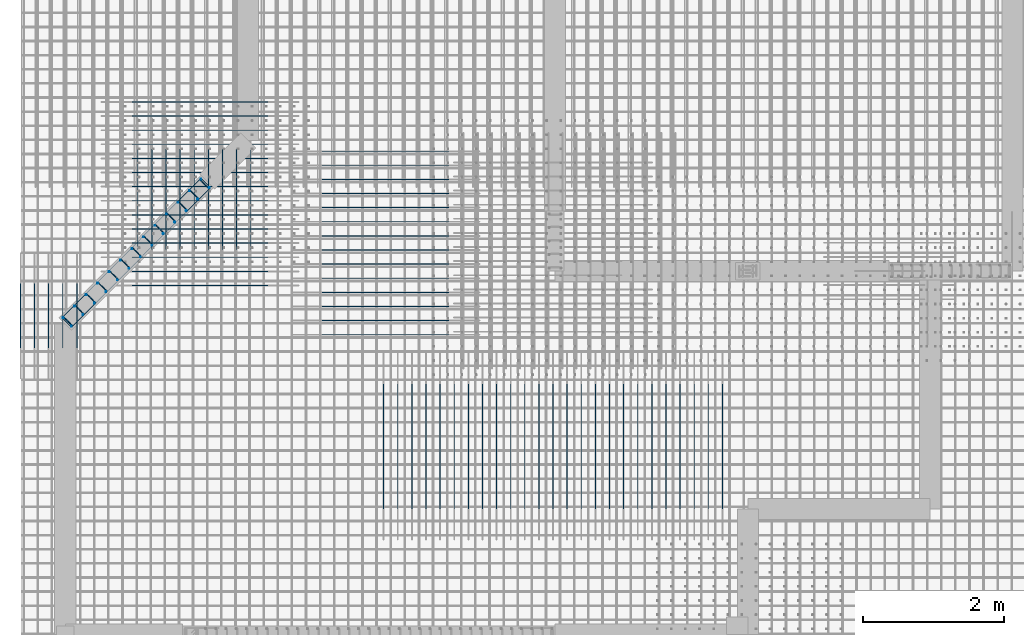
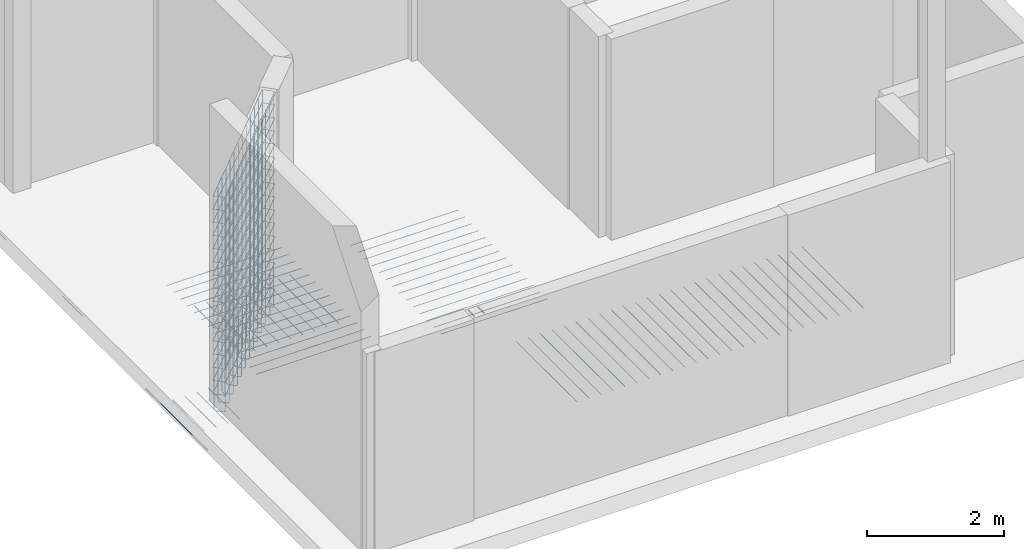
# One storey, part 3 of 8: 9 reinforcing bars.
"""IFC4 building model written with IfcOpenShell, lengths in metres."""

import ifcopenshell
import ifcopenshell.guid

model = None  # the IFC model being written
_history = None  # IfcOwnerHistory: only IFC2X3 demands one
_inside = {}  # id of a spatial element -> (the spatial element, [elements in it])
_under = {}  # id of a project, library or spatial element -> (it, [spatial elements below it])
_declared = {}  # id of a project -> (the project, [libraries it declares])
_typed = {}  # id of a type object -> (the type object, [elements of that type])
_made_of = {}  # id of a material, layer set ... -> (it, [elements and type objects made of it])


def new_model(schema):
    """Start an empty IFC model of exactly this schema.

    Asked for "IFC4X3", IfcOpenShell would pick the latest addendum, in which some entities
    have other attributes; the version numbers below select the first issue.
    IFC2X3 requires an IfcOwnerHistory on every rooted entity: one is made here for all.
    """
    global model, _history
    if schema == "IFC4X3":
        model = ifcopenshell.file(schema_version=(4, 3, 0, 0))
    else:
        model = ifcopenshell.file(schema=schema)
    _inside.clear()
    _under.clear()
    _declared.clear()
    _typed.clear()
    _made_of.clear()
    _history = None
    if model.schema == "IFC2X3":
        org = make("IfcOrganization", Name="unknown")
        user = make(
            "IfcPersonAndOrganization",
            ThePerson=make("IfcPerson", FamilyName="unknown"),
            TheOrganization=org,
        )
        app = make(
            "IfcApplication",
            ApplicationDeveloper=org,
            Version="unknown",
            ApplicationFullName="unknown",
            ApplicationIdentifier="unknown",
        )
        _history = make(
            "IfcOwnerHistory",
            OwningUser=user,
            OwningApplication=app,
            ChangeAction="ADDED",
            CreationDate=0,
        )
    return model


def make(cls, **values):
    """One entity of the class cls with the attributes given. An attribute that is None is left unset."""
    return model.create_entity(
        cls, **{name: value for name, value in values.items() if value is not None}
    )


def entity(cls, *values):
    """Any entity or typed value of the class cls, its attributes in the order of the schema. None: left unset."""
    e = model.create_entity(cls)
    for i, value in enumerate(values):
        if value is not None:
            e[i] = value
    return e


def rooted(cls, **values):
    """An entity with a GlobalId (a new one), such as an element, a storey or a relation."""
    return make(cls, GlobalId=ifcopenshell.guid.new(), OwnerHistory=_history, **values)


def si_unit(unit_type, name, prefix=None):
    """IfcSIUnit, for example si_unit("LENGTHUNIT", "METRE", prefix="MILLI")."""
    return make("IfcSIUnit", UnitType=unit_type, Prefix=prefix, Name=name)


def assignment(units):
    """IfcUnitAssignment: the units of a project."""
    return None if units is None else make("IfcUnitAssignment", Units=units)


def point(xyz):
    """IfcCartesianPoint."""
    return None if xyz is None else make("IfcCartesianPoint", Coordinates=xyz)


def direction(xyz):
    """IfcDirection."""
    return None if xyz is None else make("IfcDirection", DirectionRatios=xyz)


def frame(location, z_axis=None, x_axis=None):
    """IfcAxis2Placement3D, a coordinate frame: its origin and axes. An axis left out is left unset."""
    return make(
        "IfcAxis2Placement3D",
        Location=point(location),
        Axis=direction(z_axis),
        RefDirection=direction(x_axis),
    )


def origin_with_axes():
    """The frame at (0, 0, 0) with the z axis (0, 0, 1) and the x axis (1, 0, 0) written out."""
    return frame((0.0, 0.0, 0.0), z_axis=(0.0, 0.0, 1.0), x_axis=(1.0, 0.0, 0.0))


def place(relative_to, where):
    """IfcLocalPlacement: puts the frame where relative to a parent placement (None: the world)."""
    return make(
        "IfcLocalPlacement", PlacementRelTo=relative_to, RelativePlacement=where
    )


def context(
    kind, dimensions, precision=None, world=None, true_north=None, identifier=None
):
    """IfcGeometricRepresentationContext, for example the 3D "Model" context."""
    return make(
        "IfcGeometricRepresentationContext",
        ContextIdentifier=identifier,
        ContextType=kind,
        CoordinateSpaceDimension=dimensions,
        Precision=precision,
        WorldCoordinateSystem=world,
        TrueNorth=true_north,
    )


def project(units=None, contexts=None):
    """IfcProject with its units and contexts."""
    return rooted(
        "IfcProject",
        Name="project",
        RepresentationContexts=contexts,
        UnitsInContext=assignment(units),
    )


def spatial(cls, under=None, at=None, **own):
    """A site, building, storey or space (cls), placed at a placement, below another one or the project."""
    s = rooted(cls, ObjectPlacement=at, **own)
    if under is not None:
        _under.setdefault(under.id(), (under, []))[1].append(s)
    return s


def shape(context_of_items, identifier, shape_type, items):
    """IfcShapeRepresentation: the items that make up one representation, for example the "Body"."""
    return make(
        "IfcShapeRepresentation",
        ContextOfItems=context_of_items,
        RepresentationIdentifier=identifier,
        RepresentationType=shape_type,
        Items=items,
    )


def source(mapping_origin, context_of_items, identifier, shape_type, items):
    """IfcRepresentationMap: a shape defined once, which mapped items show again and again."""
    return make(
        "IfcRepresentationMap",
        MappingOrigin=mapping_origin,
        MappedRepresentation=shape(context_of_items, identifier, shape_type, items),
    )


def transform(
    local_origin,
    x_axis=None,
    y_axis=None,
    z_axis=None,
    scale=None,
    scale2=None,
    scale3=None,
    uniform=True,
):
    """IfcCartesianTransformationOperator3D, or its non-uniform kind. x_axis, y_axis, z_axis: its Axis1, 2, 3."""
    if uniform:
        return make(
            "IfcCartesianTransformationOperator3D",
            Axis1=direction(x_axis),
            Axis2=direction(y_axis),
            LocalOrigin=point(local_origin),
            Scale=scale,
            Axis3=direction(z_axis),
        )
    return make(
        "IfcCartesianTransformationOperator3DnonUniform",
        Axis1=direction(x_axis),
        Axis2=direction(y_axis),
        LocalOrigin=point(local_origin),
        Scale=scale,
        Axis3=direction(z_axis),
        Scale2=scale2,
        Scale3=scale3,
    )


def mapped(mapping_source, mapping_target):
    """IfcMappedItem: shows the shape of a source again, moved by a transform."""
    return make(
        "IfcMappedItem", MappingSource=mapping_source, MappingTarget=mapping_target
    )


def made_of(thing, what):
    """Note that an element or type object is made of a material, layer set ...; save() writes the relation."""
    if what is not None:
        _made_of.setdefault(what.id(), (what, []))[1].append(thing)
    return thing


def element(
    cls,
    number,
    at=None,
    inside=None,
    cuts=None,
    type_object=None,
    material=None,
    context=None,
    identifier="Body",
    shape_type=None,
    held_by="IfcProductDefinitionShape",
    body=None,
    shapes=None,
    **own,
):
    """One element of the class cls, such as IfcWall. Its Tag is "e" and its number.

    at: its placement. inside: the storey or other place that contains it. cuts: it is an
    opening in that element (IfcRelVoidsElement). A single representation is given by context,
    identifier, shape_type and body (its items); several are given by shapes. held_by: the class
    of the entity that holds the representations. save() writes the other relations.
    """
    e = rooted(cls, Tag="e%d" % number, ObjectPlacement=at, **own)
    if body is not None:
        shapes = [shape(context, identifier, shape_type, body)]
    if shapes is not None:
        e.Representation = make(held_by, Representations=shapes)
    if inside is not None:
        _inside.setdefault(inside.id(), (inside, []))[1].append(e)
    if cuts is not None:
        rooted(
            "IfcRelVoidsElement", RelatingBuildingElement=cuts, RelatedOpeningElement=e
        )
    if type_object is not None:
        _typed.setdefault(type_object.id(), (type_object, []))[1].append(e)
    return made_of(e, material)


def aggregate(whole, parts):
    """IfcRelAggregates: a whole, such as a stair, and the parts it consists of."""
    return rooted("IfcRelAggregates", RelatingObject=whole, RelatedObjects=parts)


def save(model, path):
    """Write the relations noted so far, then the file.

    IfcRelAggregates (storeys below a building ...), IfcRelContainedInSpatialStructure (elements
    in a storey), IfcRelDefinesByType, IfcRelAssociatesMaterial and IfcRelDeclares: one each for
    every whole, place, type object, material and project.
    """
    for whole, parts in _under.values():
        aggregate(whole, parts)
    for where, things in _inside.values():
        rooted(
            "IfcRelContainedInSpatialStructure",
            RelatedElements=things,
            RelatingStructure=where,
        )
    for kind, things in _typed.values():
        rooted("IfcRelDefinesByType", RelatedObjects=things, RelatingType=kind)
    for what, things in _made_of.values():
        rooted("IfcRelAssociatesMaterial", RelatedObjects=things, RelatingMaterial=what)
    for by, libraries in _declared.values():
        rooted("IfcRelDeclares", RelatingContext=by, RelatedDefinitions=libraries)
    model.write(path)


model = new_model("IFC4")

# Units and contexts
model_context = context("Model", 3, precision=1e-05, world=origin_with_axes())
ifc_project = project(units=[si_unit("LENGTHUNIT", "METRE"), si_unit("AREAUNIT", "SQUARE_METRE"), si_unit("VOLUMEUNIT", "CUBIC_METRE"), si_unit("MASSUNIT", "GRAM", prefix="KILO"), si_unit("TIMEUNIT", "SECOND"), si_unit("PLANEANGLEUNIT", "RADIAN"), si_unit("SOLIDANGLEUNIT", "STERADIAN"), si_unit("THERMODYNAMICTEMPERATUREUNIT", "DEGREE_CELSIUS")], contexts=[model_context])

# Site, building, storey
placement_1 = place(None, origin_with_axes())
site = spatial("IfcSite", under=ifc_project, at=placement_1, Name="Italia", CompositionType="ELEMENT")
building = spatial("IfcBuilding", under=site, at=placement_1, Name="Abitazione", CompositionType="ELEMENT")
storey = spatial("IfcBuildingStorey", under=building, at=placement_1, Name="Storey 0", CompositionType="ELEMENT", Elevation=0.0)

# Reinforcing bars
shared_shape_1 = source(origin_with_axes(), model_context, "Body", "AdvancedSweptSolid", [
    entity("IfcSweptDiskSolid", entity("IfcIndexedPolyCurve", entity("IfcCartesianPointList3D", [[3.11154, 7.24019, 0.0], [3.11154, 7.24019, 3.545]]), [entity("IfcLineIndex", [1, 2])], False), 0.006),
])
placement_2 = place(placement_1, origin_with_axes())
reinforcing_bar_1_placement = place(placement_2, origin_with_axes())
element("IfcReinforcingBar", 1, at=reinforcing_bar_1_placement, inside=storey, BarLength=3.545, CrossSectionArea=0.0001131, NominalDiameter=0.012, context=model_context, shape_type="MappedRepresentation", body=[
    mapped(shared_shape_1, transform((-0.97608, -0.980937, 0.0), x_axis=(1.0, 0.0, 0.0), y_axis=(0.0, 1.0, 0.0), z_axis=(0.0, 0.0, 1.0), scale=1.0)),
    mapped(shared_shape_1, transform((-0.69431, -0.935948, 0.0), x_axis=(1.0, 0.0, 0.0), y_axis=(0.0, 1.0, 0.0), z_axis=(0.0, 0.0, 1.0), scale=1.0)),
    mapped(shared_shape_1, transform((-0.36895, -0.608969, 0.0), x_axis=(1.0, 0.0, 0.0), y_axis=(0.0, 1.0, 0.0), z_axis=(0.0, 0.0, 1.0), scale=1.0)),
    mapped(shared_shape_1, transform((-0.53163, -0.772458, 0.0), x_axis=(1.0, 0.0, 0.0), y_axis=(0.0, 1.0, 0.0), z_axis=(0.0, 0.0, 1.0), scale=1.0)),
    mapped(shared_shape_1, transform((-0.65072, -0.653958, 0.0), x_axis=(1.0, 0.0, 0.0), y_axis=(0.0, 1.0, 0.0), z_axis=(0.0, 0.0, 1.0), scale=1.0)),
    mapped(shared_shape_1, transform((-0.8134, -0.817448, 0.0), x_axis=(1.0, 0.0, 0.0), y_axis=(0.0, 1.0, 0.0), z_axis=(0.0, 0.0, 1.0), scale=1.0)),
    mapped(shared_shape_1, transform((-0.48804, -0.490469, 0.0), x_axis=(1.0, 0.0, 0.0), y_axis=(0.0, 1.0, 0.0), z_axis=(0.0, 0.0, 1.0), scale=1.0)),
    mapped(shared_shape_1, transform((-0.20627, -0.445479, 0.0), x_axis=(1.0, 0.0, 0.0), y_axis=(0.0, 1.0, 0.0), z_axis=(0.0, 0.0, 1.0), scale=1.0)),
    mapped(shared_shape_1, transform((0.11909, -0.1185, 0.0), x_axis=(1.0, 0.0, 0.0), y_axis=(0.0, 1.0, 0.0), z_axis=(0.0, 0.0, 1.0), scale=1.0)),
    mapped(shared_shape_1, transform((-0.0435901, -0.28199, 0.0), x_axis=(1.0, 0.0, 0.0), y_axis=(0.0, 1.0, 0.0), z_axis=(0.0, 0.0, 1.0), scale=1.0)),
    mapped(shared_shape_1, transform((-0.16268, -0.163489, 0.0), x_axis=(1.0, 0.0, 0.0), y_axis=(0.0, 1.0, 0.0), z_axis=(0.0, 0.0, 1.0), scale=1.0)),
    mapped(shared_shape_1, transform((-0.32536, -0.326979, 0.0), x_axis=(1.0, 0.0, 0.0), y_axis=(0.0, 1.0, 0.0), z_axis=(0.0, 0.0, 1.0), scale=1.0)),
    mapped(shared_shape_1, transform((0.0, 0.0, 0.0), x_axis=(1.0, 0.0, 0.0), y_axis=(0.0, 1.0, 0.0), z_axis=(0.0, 0.0, 1.0), scale=1.0)),
    mapped(shared_shape_1, transform((-1.83307, -2.08037, 0.0), x_axis=(1.0, 0.0, 0.0), y_axis=(0.0, 1.0, 0.0), z_axis=(0.0, 0.0, 1.0), scale=1.0)),
    mapped(shared_shape_1, transform((-1.50771, -1.7534, 0.0), x_axis=(1.0, 0.0, 0.0), y_axis=(0.0, 1.0, 0.0), z_axis=(0.0, 0.0, 1.0), scale=1.0)),
    mapped(shared_shape_1, transform((-1.67039, -1.91688, 0.0), x_axis=(1.0, 0.0, 0.0), y_axis=(0.0, 1.0, 0.0), z_axis=(0.0, 0.0, 1.0), scale=1.0)),
    mapped(shared_shape_1, transform((-1.78948, -1.79838, 0.0), x_axis=(1.0, 0.0, 0.0), y_axis=(0.0, 1.0, 0.0), z_axis=(0.0, 0.0, 1.0), scale=1.0)),
    mapped(shared_shape_1, transform((-1.95216, -1.96187, 0.0), x_axis=(1.0, 0.0, 0.0), y_axis=(0.0, 1.0, 0.0), z_axis=(0.0, 0.0, 1.0), scale=1.0)),
    mapped(shared_shape_1, transform((-1.6268, -1.6349, 0.0), x_axis=(1.0, 0.0, 0.0), y_axis=(0.0, 1.0, 0.0), z_axis=(0.0, 0.0, 1.0), scale=1.0)),
    mapped(shared_shape_1, transform((-1.34503, -1.58991, 0.0), x_axis=(1.0, 0.0, 0.0), y_axis=(0.0, 1.0, 0.0), z_axis=(0.0, 0.0, 1.0), scale=1.0)),
    mapped(shared_shape_1, transform((-1.01967, -1.26293, 0.0), x_axis=(1.0, 0.0, 0.0), y_axis=(0.0, 1.0, 0.0), z_axis=(0.0, 0.0, 1.0), scale=1.0)),
    mapped(shared_shape_1, transform((-1.18235, -1.42642, 0.0), x_axis=(1.0, 0.0, 0.0), y_axis=(0.0, 1.0, 0.0), z_axis=(0.0, 0.0, 1.0), scale=1.0)),
    mapped(shared_shape_1, transform((-1.30144, -1.30792, 0.0), x_axis=(1.0, 0.0, 0.0), y_axis=(0.0, 1.0, 0.0), z_axis=(0.0, 0.0, 1.0), scale=1.0)),
    mapped(shared_shape_1, transform((-1.46412, -1.47141, 0.0), x_axis=(1.0, 0.0, 0.0), y_axis=(0.0, 1.0, 0.0), z_axis=(0.0, 0.0, 1.0), scale=1.0)),
    mapped(shared_shape_1, transform((-1.13876, -1.14443, 0.0), x_axis=(1.0, 0.0, 0.0), y_axis=(0.0, 1.0, 0.0), z_axis=(0.0, 0.0, 1.0), scale=1.0)),
    mapped(shared_shape_1, transform((-0.85699, -1.09944, 0.0), x_axis=(1.0, 0.0, 0.0), y_axis=(0.0, 1.0, 0.0), z_axis=(0.0, 0.0, 1.0), scale=1.0)),
])
shared_shape_2 = source(origin_with_axes(), model_context, "Body", "AdvancedSweptSolid", [
    entity("IfcSweptDiskSolid", entity("IfcIndexedPolyCurve", entity("IfcCartesianPointList3D", [[3.10307, 7.23168, 0.5], [3.10307, 7.23168, -0.245], [3.10469, 7.23007, -0.256481], [3.1093, 7.22548, -0.266213], [3.1162, 7.21862, -0.272716], [3.12434, 7.21052, -0.275], [3.17396, 7.16115, -0.275]]), [entity("IfcLineIndex", [1, 2]), entity("IfcLineIndex", [2, 3]), entity("IfcLineIndex", [3, 4]), entity("IfcLineIndex", [4, 5]), entity("IfcLineIndex", [5, 6]), entity("IfcLineIndex", [6, 7])], False), 0.006),
])
reinforcing_bar_2_placement = place(placement_2, origin_with_axes())
element("IfcReinforcingBar", 2, at=reinforcing_bar_2_placement, inside=storey, BarLength=0.861822, CrossSectionArea=0.0001131, NominalDiameter=0.012, context=model_context, shape_type="MappedRepresentation", body=[
    mapped(shared_shape_2, transform((-0.959164, -0.96392, 0.0), x_axis=(1.0, 0.0, 0.0), y_axis=(0.0, 1.0, 0.0), z_axis=(0.0, 0.0, 1.0), scale=1.0)),
    mapped(shared_shape_2, transform((5.52878, 13.5444, 0.0), x_axis=(-1.0, 0.0, 0.0), y_axis=(0.0, -1.0, 0.0), z_axis=(0.0, 0.0, 1.0), scale=1.0)),
    mapped(shared_shape_2, transform((5.85413, 13.8714, 0.0), x_axis=(-1.0, 0.0, 0.0), y_axis=(0.0, -1.0, 0.0), z_axis=(0.0, 0.0, 1.0), scale=1.0)),
    mapped(shared_shape_2, transform((5.69146, 13.7079, 0.0), x_axis=(-1.0, 0.0, 0.0), y_axis=(0.0, -1.0, 0.0), z_axis=(0.0, 0.0, 1.0), scale=1.0)),
    mapped(shared_shape_2, transform((-0.633816, -0.636936, 0.0), x_axis=(1.0, 0.0, 0.0), y_axis=(0.0, 1.0, 0.0), z_axis=(0.0, 0.0, 1.0), scale=1.0)),
    mapped(shared_shape_2, transform((-0.796484, -0.800431, 0.0), x_axis=(1.0, 0.0, 0.0), y_axis=(0.0, 1.0, 0.0), z_axis=(0.0, 0.0, 1.0), scale=1.0)),
    mapped(shared_shape_2, transform((-0.471112, -0.473457, 0.0), x_axis=(1.0, 0.0, 0.0), y_axis=(0.0, 1.0, 0.0), z_axis=(0.0, 0.0, 1.0), scale=1.0)),
    mapped(shared_shape_2, transform((6.0168, 14.0349, 0.0), x_axis=(-1.0, 0.0, 0.0), y_axis=(0.0, -1.0, 0.0), z_axis=(0.0, 0.0, 1.0), scale=1.0)),
    mapped(shared_shape_2, transform((6.32523, 14.3449, 0.0), x_axis=(-1.0, 0.0, 0.0), y_axis=(0.0, -1.0, 0.0), z_axis=(0.0, 0.0, 1.0), scale=1.0)),
    mapped(shared_shape_2, transform((6.17949, 14.1984, 0.0), x_axis=(-1.0, 0.0, 0.0), y_axis=(0.0, -1.0, 0.0), z_axis=(0.0, 0.0, 1.0), scale=1.0)),
    mapped(shared_shape_2, transform((-0.145776, -0.146468, 0.0), x_axis=(1.0, 0.0, 0.0), y_axis=(0.0, 1.0, 0.0), z_axis=(0.0, 0.0, 1.0), scale=1.0)),
    mapped(shared_shape_2, transform((-0.308419, -0.309973, 0.0), x_axis=(1.0, 0.0, 0.0), y_axis=(0.0, 1.0, 0.0), z_axis=(0.0, 0.0, 1.0), scale=1.0)),
    mapped(shared_shape_2, transform((0.0, 0.0, 0.0), x_axis=(1.0, 0.0, 0.0), y_axis=(0.0, 1.0, 0.0), z_axis=(0.0, 0.0, 1.0), scale=1.0)),
    mapped(shared_shape_2, transform((4.38999, 12.4, 0.0), x_axis=(-1.0, 0.0, 0.0), y_axis=(0.0, -1.0, 0.0), z_axis=(0.0, 0.0, 1.0), scale=1.0)),
    mapped(shared_shape_2, transform((4.71535, 12.727, 0.0), x_axis=(-1.0, 0.0, 0.0), y_axis=(0.0, -1.0, 0.0), z_axis=(0.0, 0.0, 1.0), scale=1.0)),
    mapped(shared_shape_2, transform((4.5527, 12.5635, 0.0), x_axis=(-1.0, 0.0, 0.0), y_axis=(0.0, -1.0, 0.0), z_axis=(0.0, 0.0, 1.0), scale=1.0)),
    mapped(shared_shape_2, transform((-1.77257, -1.78137, 0.0), x_axis=(1.0, 0.0, 0.0), y_axis=(0.0, 1.0, 0.0), z_axis=(0.0, 0.0, 1.0), scale=1.0)),
    mapped(shared_shape_2, transform((-1.93523, -1.94487, 0.0), x_axis=(1.0, 0.0, 0.0), y_axis=(0.0, 1.0, 0.0), z_axis=(0.0, 0.0, 1.0), scale=1.0)),
    mapped(shared_shape_2, transform((-1.60986, -1.61789, 0.0), x_axis=(1.0, 0.0, 0.0), y_axis=(0.0, 1.0, 0.0), z_axis=(0.0, 0.0, 1.0), scale=1.0)),
    mapped(shared_shape_2, transform((4.87806, 12.8905, 0.0), x_axis=(-1.0, 0.0, 0.0), y_axis=(0.0, -1.0, 0.0), z_axis=(0.0, 0.0, 1.0), scale=1.0)),
    mapped(shared_shape_2, transform((5.20339, 13.2175, 0.0), x_axis=(-1.0, 0.0, 0.0), y_axis=(0.0, -1.0, 0.0), z_axis=(0.0, 0.0, 1.0), scale=1.0)),
    mapped(shared_shape_2, transform((5.04071, 13.054, 0.0), x_axis=(-1.0, 0.0, 0.0), y_axis=(0.0, -1.0, 0.0), z_axis=(0.0, 0.0, 1.0), scale=1.0)),
    mapped(shared_shape_2, transform((-1.2845, -1.29091, 0.0), x_axis=(1.0, 0.0, 0.0), y_axis=(0.0, 1.0, 0.0), z_axis=(0.0, 0.0, 1.0), scale=1.0)),
    mapped(shared_shape_2, transform((-1.44721, -1.45439, 0.0), x_axis=(1.0, 0.0, 0.0), y_axis=(0.0, 1.0, 0.0), z_axis=(0.0, 0.0, 1.0), scale=1.0)),
    mapped(shared_shape_2, transform((-1.12183, -1.12742, 0.0), x_axis=(1.0, 0.0, 0.0), y_axis=(0.0, 1.0, 0.0), z_axis=(0.0, 0.0, 1.0), scale=1.0)),
    mapped(shared_shape_2, transform((5.36608, 13.3809, 0.0), x_axis=(-1.0, 0.0, 0.0), y_axis=(0.0, -1.0, 0.0), z_axis=(0.0, 0.0, 1.0), scale=1.0)),
])
shared_shape_3 = source(origin_with_axes(), model_context, "Body", "AdvancedSweptSolid", [
    entity("IfcSweptDiskSolid", entity("IfcIndexedPolyCurve", entity("IfcCartesianPointList3D", [[3.24618, 7.12173, 0.03], [1.2785, 5.14426, 0.03]]), [entity("IfcLineIndex", [1, 2])], False), 0.005),
])
reinforcing_bar_3_placement = place(placement_2, origin_with_axes())
element("IfcReinforcingBar", 3, at=reinforcing_bar_3_placement, inside=storey, BarLength=2.78965, CrossSectionArea=7.854e-05, NominalDiameter=0.01, context=model_context, shape_type="MappedRepresentation", body=[
    mapped(shared_shape_3, transform((0.0, 0.0, 2.34), x_axis=(1.0, 0.0, 0.0), y_axis=(0.0, 1.0, 0.0), z_axis=(0.0, 0.0, 1.0), scale=1.0)),
    mapped(shared_shape_3, transform((0.0, 0.0, 2.574), x_axis=(1.0, 0.0, 0.0), y_axis=(0.0, 1.0, 0.0), z_axis=(0.0, 0.0, 1.0), scale=1.0)),
    mapped(shared_shape_3, transform((0.0, 0.0, 1.872), x_axis=(1.0, 0.0, 0.0), y_axis=(0.0, 1.0, 0.0), z_axis=(0.0, 0.0, 1.0), scale=1.0)),
    mapped(shared_shape_3, transform((0.0, 0.0, 2.106), x_axis=(1.0, 0.0, 0.0), y_axis=(0.0, 1.0, 0.0), z_axis=(0.0, 0.0, 1.0), scale=1.0)),
    mapped(shared_shape_3, transform((0.0, 0.0, 3.276), x_axis=(1.0, 0.0, 0.0), y_axis=(0.0, 1.0, 0.0), z_axis=(0.0, 0.0, 1.0), scale=1.0)),
    mapped(shared_shape_3, transform((0.0, 0.0, 3.51), x_axis=(1.0, 0.0, 0.0), y_axis=(0.0, 1.0, 0.0), z_axis=(0.0, 0.0, 1.0), scale=1.0)),
    mapped(shared_shape_3, transform((0.0, 0.0, 2.808), x_axis=(1.0, 0.0, 0.0), y_axis=(0.0, 1.0, 0.0), z_axis=(0.0, 0.0, 1.0), scale=1.0)),
    mapped(shared_shape_3, transform((0.0, 0.0, 3.042), x_axis=(1.0, 0.0, 0.0), y_axis=(0.0, 1.0, 0.0), z_axis=(0.0, 0.0, 1.0), scale=1.0)),
    mapped(shared_shape_3, transform((0.0, 0.0, 0.468), x_axis=(1.0, 0.0, 0.0), y_axis=(0.0, 1.0, 0.0), z_axis=(0.0, 0.0, 1.0), scale=1.0)),
    mapped(shared_shape_3, transform((0.0, 0.0, 0.702), x_axis=(1.0, 0.0, 0.0), y_axis=(0.0, 1.0, 0.0), z_axis=(0.0, 0.0, 1.0), scale=1.0)),
    mapped(shared_shape_3, transform((4.39, 12.4, 0.0), x_axis=(-1.0, 0.0, 0.0), y_axis=(0.0, -1.0, 0.0), z_axis=(0.0, 0.0, 1.0), scale=1.0)),
    mapped(shared_shape_3, transform((0.0, 0.0, 0.0), x_axis=(1.0, 0.0, 0.0), y_axis=(0.0, 1.0, 0.0), z_axis=(0.0, 0.0, 1.0), scale=1.0)),
    mapped(shared_shape_3, transform((4.39, 12.4, 0.234), x_axis=(-1.0, 0.0, 0.0), y_axis=(0.0, -1.0, 0.0), z_axis=(0.0, 0.0, 1.0), scale=1.0)),
    mapped(shared_shape_3, transform((0.0, 0.0, 0.234), x_axis=(1.0, 0.0, 0.0), y_axis=(0.0, 1.0, 0.0), z_axis=(0.0, 0.0, 1.0), scale=1.0)),
    mapped(shared_shape_3, transform((4.39, 12.4, 0.468), x_axis=(-1.0, 0.0, 0.0), y_axis=(0.0, -1.0, 0.0), z_axis=(0.0, 0.0, 1.0), scale=1.0)),
    mapped(shared_shape_3, transform((4.39, 12.4, 0.702), x_axis=(-1.0, 0.0, 0.0), y_axis=(0.0, -1.0, 0.0), z_axis=(0.0, 0.0, 1.0), scale=1.0)),
    mapped(shared_shape_3, transform((0.0, 0.0, 1.404), x_axis=(1.0, 0.0, 0.0), y_axis=(0.0, 1.0, 0.0), z_axis=(0.0, 0.0, 1.0), scale=1.0)),
    mapped(shared_shape_3, transform((0.0, 0.0, 1.638), x_axis=(1.0, 0.0, 0.0), y_axis=(0.0, 1.0, 0.0), z_axis=(0.0, 0.0, 1.0), scale=1.0)),
    mapped(shared_shape_3, transform((4.39, 12.4, 0.936), x_axis=(-1.0, 0.0, 0.0), y_axis=(0.0, -1.0, 0.0), z_axis=(0.0, 0.0, 1.0), scale=1.0)),
    mapped(shared_shape_3, transform((0.0, 0.0, 0.936), x_axis=(1.0, 0.0, 0.0), y_axis=(0.0, 1.0, 0.0), z_axis=(0.0, 0.0, 1.0), scale=1.0)),
    mapped(shared_shape_3, transform((4.39, 12.4, 1.17), x_axis=(-1.0, 0.0, 0.0), y_axis=(0.0, -1.0, 0.0), z_axis=(0.0, 0.0, 1.0), scale=1.0)),
    mapped(shared_shape_3, transform((0.0, 0.0, 1.17), x_axis=(1.0, 0.0, 0.0), y_axis=(0.0, 1.0, 0.0), z_axis=(0.0, 0.0, 1.0), scale=1.0)),
    mapped(shared_shape_3, transform((4.39, 12.4, 2.34), x_axis=(-1.0, 0.0, 0.0), y_axis=(0.0, -1.0, 0.0), z_axis=(0.0, 0.0, 1.0), scale=1.0)),
    mapped(shared_shape_3, transform((4.39, 12.4, 2.574), x_axis=(-1.0, 0.0, 0.0), y_axis=(0.0, -1.0, 0.0), z_axis=(0.0, 0.0, 1.0), scale=1.0)),
    mapped(shared_shape_3, transform((4.39, 12.4, 1.872), x_axis=(-1.0, 0.0, 0.0), y_axis=(0.0, -1.0, 0.0), z_axis=(0.0, 0.0, 1.0), scale=1.0)),
    mapped(shared_shape_3, transform((4.39, 12.4, 2.106), x_axis=(-1.0, 0.0, 0.0), y_axis=(0.0, -1.0, 0.0), z_axis=(0.0, 0.0, 1.0), scale=1.0)),
    mapped(shared_shape_3, transform((4.39, 12.4, 3.276), x_axis=(-1.0, 0.0, 0.0), y_axis=(0.0, -1.0, 0.0), z_axis=(0.0, 0.0, 1.0), scale=1.0)),
    mapped(shared_shape_3, transform((4.39, 12.4, 3.51), x_axis=(-1.0, 0.0, 0.0), y_axis=(0.0, -1.0, 0.0), z_axis=(0.0, 0.0, 1.0), scale=1.0)),
    mapped(shared_shape_3, transform((4.39, 12.4, 2.808), x_axis=(-1.0, 0.0, 0.0), y_axis=(0.0, -1.0, 0.0), z_axis=(0.0, 0.0, 1.0), scale=1.0)),
    mapped(shared_shape_3, transform((4.39, 12.4, 3.042), x_axis=(-1.0, 0.0, 0.0), y_axis=(0.0, -1.0, 0.0), z_axis=(0.0, 0.0, 1.0), scale=1.0)),
    mapped(shared_shape_3, transform((4.39, 12.4, 1.404), x_axis=(-1.0, 0.0, 0.0), y_axis=(0.0, -1.0, 0.0), z_axis=(0.0, 0.0, 1.0), scale=1.0)),
    mapped(shared_shape_3, transform((4.39, 12.4, 1.638), x_axis=(-1.0, 0.0, 0.0), y_axis=(0.0, -1.0, 0.0), z_axis=(0.0, 0.0, 1.0), scale=1.0)),
])
shared_shape_4 = source(origin_with_axes(), model_context, "Body", "AdvancedSweptSolid", [
    entity("IfcSweptDiskSolid", entity("IfcIndexedPolyCurve", entity("IfcCartesianPointList3D", [[2.76588, 6.9084, 0.04], [3.10444, 7.24866, 0.04], [3.10768, 7.25083, 0.04], [3.11151, 7.2516, 0.04], [3.11534, 7.25085, 0.04], [3.11859, 7.24869, 0.04], [3.23909, 7.12878, 0.04], [3.24127, 7.12554, 0.04], [3.24204, 7.12172, 0.04], [3.24129, 7.11789, 0.04], [3.23913, 7.11464, 0.04], [2.90056, 6.77438, 0.04]]), [entity("IfcLineIndex", [1, 2]), entity("IfcLineIndex", [2, 3]), entity("IfcLineIndex", [3, 4]), entity("IfcLineIndex", [4, 5]), entity("IfcLineIndex", [5, 6]), entity("IfcLineIndex", [6, 7]), entity("IfcLineIndex", [7, 8]), entity("IfcLineIndex", [8, 9]), entity("IfcLineIndex", [9, 10]), entity("IfcLineIndex", [10, 11]), entity("IfcLineIndex", [11, 12])], False), 0.005),
])
reinforcing_bar_4_placement = place(placement_2, origin_with_axes())
element("IfcReinforcingBar", 4, at=reinforcing_bar_4_placement, inside=storey, BarLength=1.16122, CrossSectionArea=7.854e-05, NominalDiameter=0.01, context=model_context, shape_type="MappedRepresentation", body=[
    mapped(shared_shape_4, transform((0.0, 0.0, 2.34), x_axis=(1.0, 0.0, 0.0), y_axis=(0.0, 1.0, 0.0), z_axis=(0.0, 0.0, 1.0), scale=1.0)),
    mapped(shared_shape_4, transform((0.0, 0.0, 2.574), x_axis=(1.0, 0.0, 0.0), y_axis=(0.0, 1.0, 0.0), z_axis=(0.0, 0.0, 1.0), scale=1.0)),
    mapped(shared_shape_4, transform((0.0, 0.0, 1.872), x_axis=(1.0, 0.0, 0.0), y_axis=(0.0, 1.0, 0.0), z_axis=(0.0, 0.0, 1.0), scale=1.0)),
    mapped(shared_shape_4, transform((0.0, 0.0, 2.106), x_axis=(1.0, 0.0, 0.0), y_axis=(0.0, 1.0, 0.0), z_axis=(0.0, 0.0, 1.0), scale=1.0)),
    mapped(shared_shape_4, transform((0.0, 0.0, 3.276), x_axis=(1.0, 0.0, 0.0), y_axis=(0.0, 1.0, 0.0), z_axis=(0.0, 0.0, 1.0), scale=1.0)),
    mapped(shared_shape_4, transform((0.0, 0.0, 3.51), x_axis=(1.0, 0.0, 0.0), y_axis=(0.0, 1.0, 0.0), z_axis=(0.0, 0.0, 1.0), scale=1.0)),
    mapped(shared_shape_4, transform((0.0, 0.0, 2.808), x_axis=(1.0, 0.0, 0.0), y_axis=(0.0, 1.0, 0.0), z_axis=(0.0, 0.0, 1.0), scale=1.0)),
    mapped(shared_shape_4, transform((0.0, 0.0, 3.042), x_axis=(1.0, 0.0, 0.0), y_axis=(0.0, 1.0, 0.0), z_axis=(0.0, 0.0, 1.0), scale=1.0)),
    mapped(shared_shape_4, transform((0.0, 0.0, 0.468), x_axis=(1.0, 0.0, 0.0), y_axis=(0.0, 1.0, 0.0), z_axis=(0.0, 0.0, 1.0), scale=1.0)),
    mapped(shared_shape_4, transform((0.0, 0.0, 0.702), x_axis=(1.0, 0.0, 0.0), y_axis=(0.0, 1.0, 0.0), z_axis=(0.0, 0.0, 1.0), scale=1.0)),
    mapped(shared_shape_4, transform((4.39, 12.4, 0.0), x_axis=(-1.0, 0.0, 0.0), y_axis=(0.0, -1.0, 0.0), z_axis=(0.0, 0.0, 1.0), scale=1.0)),
    mapped(shared_shape_4, transform((0.0, 0.0, 0.0), x_axis=(1.0, 0.0, 0.0), y_axis=(0.0, 1.0, 0.0), z_axis=(0.0, 0.0, 1.0), scale=1.0)),
    mapped(shared_shape_4, transform((4.39, 12.4, 0.234), x_axis=(-1.0, 0.0, 0.0), y_axis=(0.0, -1.0, 0.0), z_axis=(0.0, 0.0, 1.0), scale=1.0)),
    mapped(shared_shape_4, transform((0.0, 0.0, 0.234), x_axis=(1.0, 0.0, 0.0), y_axis=(0.0, 1.0, 0.0), z_axis=(0.0, 0.0, 1.0), scale=1.0)),
    mapped(shared_shape_4, transform((4.39, 12.4, 0.468), x_axis=(-1.0, 0.0, 0.0), y_axis=(0.0, -1.0, 0.0), z_axis=(0.0, 0.0, 1.0), scale=1.0)),
    mapped(shared_shape_4, transform((4.39, 12.4, 0.702), x_axis=(-1.0, 0.0, 0.0), y_axis=(0.0, -1.0, 0.0), z_axis=(0.0, 0.0, 1.0), scale=1.0)),
    mapped(shared_shape_4, transform((0.0, 0.0, 1.404), x_axis=(1.0, 0.0, 0.0), y_axis=(0.0, 1.0, 0.0), z_axis=(0.0, 0.0, 1.0), scale=1.0)),
    mapped(shared_shape_4, transform((0.0, 0.0, 1.638), x_axis=(1.0, 0.0, 0.0), y_axis=(0.0, 1.0, 0.0), z_axis=(0.0, 0.0, 1.0), scale=1.0)),
    mapped(shared_shape_4, transform((4.39, 12.4, 0.936), x_axis=(-1.0, 0.0, 0.0), y_axis=(0.0, -1.0, 0.0), z_axis=(0.0, 0.0, 1.0), scale=1.0)),
    mapped(shared_shape_4, transform((0.0, 0.0, 0.936), x_axis=(1.0, 0.0, 0.0), y_axis=(0.0, 1.0, 0.0), z_axis=(0.0, 0.0, 1.0), scale=1.0)),
    mapped(shared_shape_4, transform((4.39, 12.4, 1.17), x_axis=(-1.0, 0.0, 0.0), y_axis=(0.0, -1.0, 0.0), z_axis=(0.0, 0.0, 1.0), scale=1.0)),
    mapped(shared_shape_4, transform((0.0, 0.0, 1.17), x_axis=(1.0, 0.0, 0.0), y_axis=(0.0, 1.0, 0.0), z_axis=(0.0, 0.0, 1.0), scale=1.0)),
    mapped(shared_shape_4, transform((4.39, 12.4, 2.34), x_axis=(-1.0, 0.0, 0.0), y_axis=(0.0, -1.0, 0.0), z_axis=(0.0, 0.0, 1.0), scale=1.0)),
    mapped(shared_shape_4, transform((4.39, 12.4, 2.574), x_axis=(-1.0, 0.0, 0.0), y_axis=(0.0, -1.0, 0.0), z_axis=(0.0, 0.0, 1.0), scale=1.0)),
    mapped(shared_shape_4, transform((4.39, 12.4, 1.872), x_axis=(-1.0, 0.0, 0.0), y_axis=(0.0, -1.0, 0.0), z_axis=(0.0, 0.0, 1.0), scale=1.0)),
    mapped(shared_shape_4, transform((4.39, 12.4, 2.106), x_axis=(-1.0, 0.0, 0.0), y_axis=(0.0, -1.0, 0.0), z_axis=(0.0, 0.0, 1.0), scale=1.0)),
    mapped(shared_shape_4, transform((4.39, 12.4, 3.276), x_axis=(-1.0, 0.0, 0.0), y_axis=(0.0, -1.0, 0.0), z_axis=(0.0, 0.0, 1.0), scale=1.0)),
    mapped(shared_shape_4, transform((4.39, 12.4, 3.51), x_axis=(-1.0, 0.0, 0.0), y_axis=(0.0, -1.0, 0.0), z_axis=(0.0, 0.0, 1.0), scale=1.0)),
    mapped(shared_shape_4, transform((4.39, 12.4, 2.808), x_axis=(-1.0, 0.0, 0.0), y_axis=(0.0, -1.0, 0.0), z_axis=(0.0, 0.0, 1.0), scale=1.0)),
    mapped(shared_shape_4, transform((4.39, 12.4, 3.042), x_axis=(-1.0, 0.0, 0.0), y_axis=(0.0, -1.0, 0.0), z_axis=(0.0, 0.0, 1.0), scale=1.0)),
    mapped(shared_shape_4, transform((4.39, 12.4, 1.404), x_axis=(-1.0, 0.0, 0.0), y_axis=(0.0, -1.0, 0.0), z_axis=(0.0, 0.0, 1.0), scale=1.0)),
    mapped(shared_shape_4, transform((4.39, 12.4, 1.638), x_axis=(-1.0, 0.0, 0.0), y_axis=(0.0, -1.0, 0.0), z_axis=(0.0, 0.0, 1.0), scale=1.0)),
])
shared_shape_5 = source(origin_with_axes(), model_context, "Body", "AdvancedSweptSolid", [
    entity("IfcSweptDiskSolid", entity("IfcIndexedPolyCurve", entity("IfcCartesianPointList3D", [[4.82923, 5.03922, -0.054], [6.62514, 5.03922, -0.054]]), [entity("IfcLineIndex", [1, 2])], False), 0.006),
])
reinforcing_bar_5_placement = place(placement_2, origin_with_axes())
element("IfcReinforcingBar", 5, at=reinforcing_bar_5_placement, inside=storey, BarLength=1.79591, CrossSectionArea=0.0001131, NominalDiameter=0.012, context=model_context, shape_type="MappedRepresentation", body=[
    mapped(shared_shape_5, transform((0.0, 1.6, 0.0), x_axis=(1.0, 0.0, 0.0), y_axis=(0.0, 1.0, 0.0), z_axis=(0.0, 0.0, 1.0), scale=1.0)),
    mapped(shared_shape_5, transform((0.0, 1.4, 0.0), x_axis=(1.0, 0.0, 0.0), y_axis=(0.0, 1.0, 0.0), z_axis=(0.0, 0.0, 1.0), scale=1.0)),
    mapped(shared_shape_5, transform((0.0, 1.8, 0.0), x_axis=(1.0, 0.0, 0.0), y_axis=(0.0, 1.0, 0.0), z_axis=(0.0, 0.0, 1.0), scale=1.0)),
    mapped(shared_shape_5, transform((0.0, 2.2, 0.0), x_axis=(1.0, 0.0, 0.0), y_axis=(0.0, 1.0, 0.0), z_axis=(0.0, 0.0, 1.0), scale=1.0)),
    mapped(shared_shape_5, transform((0.0, 2.0, 0.0), x_axis=(1.0, 0.0, 0.0), y_axis=(0.0, 1.0, 0.0), z_axis=(0.0, 0.0, 1.0), scale=1.0)),
    mapped(shared_shape_5, transform((0.0, 2.4, 0.0), x_axis=(1.0, 0.0, 0.0), y_axis=(0.0, 1.0, 0.0), z_axis=(0.0, 0.0, 1.0), scale=1.0)),
    mapped(shared_shape_5, transform((0.0, 0.0, 0.0), x_axis=(1.0, 0.0, 0.0), y_axis=(0.0, 1.0, 0.0), z_axis=(0.0, 0.0, 1.0), scale=1.0)),
    mapped(shared_shape_5, transform((0.0, 2.6, 0.0), x_axis=(1.0, 0.0, 0.0), y_axis=(0.0, 1.0, 0.0), z_axis=(0.0, 0.0, 1.0), scale=1.0)),
    mapped(shared_shape_5, transform((0.0, 0.2, 0.0), x_axis=(1.0, 0.0, 0.0), y_axis=(0.0, 1.0, 0.0), z_axis=(0.0, 0.0, 1.0), scale=1.0)),
    mapped(shared_shape_5, transform((0.0, 0.599999, 0.0), x_axis=(1.0, 0.0, 0.0), y_axis=(0.0, 1.0, 0.0), z_axis=(0.0, 0.0, 1.0), scale=1.0)),
    mapped(shared_shape_5, transform((0.0, 0.4, 0.0), x_axis=(1.0, 0.0, 0.0), y_axis=(0.0, 1.0, 0.0), z_axis=(0.0, 0.0, 1.0), scale=1.0)),
    mapped(shared_shape_5, transform((0.0, 0.799999, 0.0), x_axis=(1.0, 0.0, 0.0), y_axis=(0.0, 1.0, 0.0), z_axis=(0.0, 0.0, 1.0), scale=1.0)),
    mapped(shared_shape_5, transform((0.0, 1.2, 0.0), x_axis=(1.0, 0.0, 0.0), y_axis=(0.0, 1.0, 0.0), z_axis=(0.0, 0.0, 1.0), scale=1.0)),
    mapped(shared_shape_5, transform((0.0, 0.999999, 0.0), x_axis=(1.0, 0.0, 0.0), y_axis=(0.0, 1.0, 0.0), z_axis=(0.0, 0.0, 1.0), scale=1.0)),
])
shared_shape_6 = source(origin_with_axes(), model_context, "Body", "AdvancedSweptSolid", [
    entity("IfcSweptDiskSolid", entity("IfcIndexedPolyCurve", entity("IfcCartesianPointList3D", [[5.70011, 2.56701, -0.066], [5.70011, 4.34292, -0.066]]), [entity("IfcLineIndex", [1, 2])], False), 0.006),
])
reinforcing_bar_6_placement = place(placement_2, origin_with_axes())
element("IfcReinforcingBar", 6, at=reinforcing_bar_6_placement, inside=storey, BarLength=1.77591, CrossSectionArea=0.0001131, NominalDiameter=0.012, context=model_context, shape_type="MappedRepresentation", body=[
    mapped(shared_shape_6, transform((0.0, 0.0, 0.0), x_axis=(1.0, 0.0, 0.0), y_axis=(0.0, 1.0, 0.0), z_axis=(0.0, 0.0, 1.0), scale=1.0)),
    mapped(shared_shape_6, transform((1.6, 0.0, 0.0), x_axis=(1.0, 0.0, 0.0), y_axis=(0.0, 1.0, 0.0), z_axis=(0.0, 0.0, 1.0), scale=1.0)),
    mapped(shared_shape_6, transform((1.4, 0.0, 0.0), x_axis=(1.0, 0.0, 0.0), y_axis=(0.0, 1.0, 0.0), z_axis=(0.0, 0.0, 1.0), scale=1.0)),
    mapped(shared_shape_6, transform((1.8, 0.0, 0.0), x_axis=(1.0, 0.0, 0.0), y_axis=(0.0, 1.0, 0.0), z_axis=(0.0, 0.0, 1.0), scale=1.0)),
    mapped(shared_shape_6, transform((2.2, 0.0, 0.0), x_axis=(1.0, 0.0, 0.0), y_axis=(0.0, 1.0, 0.0), z_axis=(0.0, 0.0, 1.0), scale=1.0)),
    mapped(shared_shape_6, transform((2.0, 0.0, 0.0), x_axis=(1.0, 0.0, 0.0), y_axis=(0.0, 1.0, 0.0), z_axis=(0.0, 0.0, 1.0), scale=1.0)),
    mapped(shared_shape_6, transform((1.2, 0.0, 0.0), x_axis=(1.0, 0.0, 0.0), y_axis=(0.0, 1.0, 0.0), z_axis=(0.0, 0.0, 1.0), scale=1.0)),
    mapped(shared_shape_6, transform((0.4, 0.0, 0.0), x_axis=(1.0, 0.0, 0.0), y_axis=(0.0, 1.0, 0.0), z_axis=(0.0, 0.0, 1.0), scale=1.0)),
    mapped(shared_shape_6, transform((0.2, 0.0, 0.0), x_axis=(1.0, 0.0, 0.0), y_axis=(0.0, 1.0, 0.0), z_axis=(0.0, 0.0, 1.0), scale=1.0)),
    mapped(shared_shape_6, transform((0.599999, 0.0, 0.0), x_axis=(1.0, 0.0, 0.0), y_axis=(0.0, 1.0, 0.0), z_axis=(0.0, 0.0, 1.0), scale=1.0)),
    mapped(shared_shape_6, transform((0.999999, 0.0, 0.0), x_axis=(1.0, 0.0, 0.0), y_axis=(0.0, 1.0, 0.0), z_axis=(0.0, 0.0, 1.0), scale=1.0)),
    mapped(shared_shape_6, transform((0.799999, 0.0, 0.0), x_axis=(1.0, 0.0, 0.0), y_axis=(0.0, 1.0, 0.0), z_axis=(0.0, 0.0, 1.0), scale=1.0)),
    mapped(shared_shape_6, transform((2.4, 0.0, 0.0), x_axis=(1.0, 0.0, 0.0), y_axis=(0.0, 1.0, 0.0), z_axis=(0.0, 0.0, 1.0), scale=1.0)),
    mapped(shared_shape_6, transform((4.0, 0.0, 0.0), x_axis=(1.0, 0.0, 0.0), y_axis=(0.0, 1.0, 0.0), z_axis=(0.0, 0.0, 1.0), scale=1.0)),
    mapped(shared_shape_6, transform((3.8, 0.0, 0.0), x_axis=(1.0, 0.0, 0.0), y_axis=(0.0, 1.0, 0.0), z_axis=(0.0, 0.0, 1.0), scale=1.0)),
    mapped(shared_shape_6, transform((4.2, 0.0, 0.0), x_axis=(1.0, 0.0, 0.0), y_axis=(0.0, 1.0, 0.0), z_axis=(0.0, 0.0, 1.0), scale=1.0)),
    mapped(shared_shape_6, transform((4.6, 0.0, 0.0), x_axis=(1.0, 0.0, 0.0), y_axis=(0.0, 1.0, 0.0), z_axis=(0.0, 0.0, 1.0), scale=1.0)),
    mapped(shared_shape_6, transform((4.4, 0.0, 0.0), x_axis=(1.0, 0.0, 0.0), y_axis=(0.0, 1.0, 0.0), z_axis=(0.0, 0.0, 1.0), scale=1.0)),
    mapped(shared_shape_6, transform((3.6, 0.0, 0.0), x_axis=(1.0, 0.0, 0.0), y_axis=(0.0, 1.0, 0.0), z_axis=(0.0, 0.0, 1.0), scale=1.0)),
    mapped(shared_shape_6, transform((2.8, 0.0, 0.0), x_axis=(1.0, 0.0, 0.0), y_axis=(0.0, 1.0, 0.0), z_axis=(0.0, 0.0, 1.0), scale=1.0)),
    mapped(shared_shape_6, transform((2.6, 0.0, 0.0), x_axis=(1.0, 0.0, 0.0), y_axis=(0.0, 1.0, 0.0), z_axis=(0.0, 0.0, 1.0), scale=1.0)),
    mapped(shared_shape_6, transform((3.0, 0.0, 0.0), x_axis=(1.0, 0.0, 0.0), y_axis=(0.0, 1.0, 0.0), z_axis=(0.0, 0.0, 1.0), scale=1.0)),
    mapped(shared_shape_6, transform((3.4, 0.0, 0.0), x_axis=(1.0, 0.0, 0.0), y_axis=(0.0, 1.0, 0.0), z_axis=(0.0, 0.0, 1.0), scale=1.0)),
    mapped(shared_shape_6, transform((3.2, 0.0, 0.0), x_axis=(1.0, 0.0, 0.0), y_axis=(0.0, 1.0, 0.0), z_axis=(0.0, 0.0, 1.0), scale=1.0)),
    mapped(shared_shape_6, transform((4.79999, 0.0, 0.0), x_axis=(1.0, 0.0, 0.0), y_axis=(0.0, 1.0, 0.0), z_axis=(0.0, 0.0, 1.0), scale=1.0)),
])
shared_shape_7 = source(origin_with_axes(), model_context, "Body", "AdvancedSweptSolid", [
    entity("IfcSweptDiskSolid", entity("IfcIndexedPolyCurve", entity("IfcCartesianPointList3D", [[0.554, 4.85214, -0.234], [0.554, 5.76805, -0.234]]), [entity("IfcLineIndex", [1, 2])], False), 0.006),
])
reinforcing_bar_7_placement = place(placement_2, origin_with_axes())
element("IfcReinforcingBar", 7, at=reinforcing_bar_7_placement, inside=storey, BarLength=0.915909, CrossSectionArea=0.0001131, NominalDiameter=0.012, context=model_context, shape_type="MappedRepresentation", body=[
    mapped(shared_shape_7, transform((0.0, 0.0, 0.0), x_axis=(1.0, 0.0, 0.0), y_axis=(0.0, 1.0, 0.0), z_axis=(0.0, 0.0, 1.0), scale=1.0)),
    mapped(shared_shape_7, transform((0.2, 0.0, 0.0), x_axis=(1.0, 0.0, 0.0), y_axis=(0.0, 1.0, 0.0), z_axis=(0.0, 0.0, 1.0), scale=1.0)),
    mapped(shared_shape_7, transform((0.4, 0.0, 0.0), x_axis=(1.0, 0.0, 0.0), y_axis=(0.0, 1.0, 0.0), z_axis=(0.0, 0.0, 1.0), scale=1.0)),
    mapped(shared_shape_7, transform((0.6, 0.0, 0.0), x_axis=(1.0, 0.0, 0.0), y_axis=(0.0, 1.0, 0.0), z_axis=(0.0, 0.0, 1.0), scale=1.0)),
    mapped(shared_shape_7, transform((0.8, 0.0, 0.0), x_axis=(1.0, 0.0, 0.0), y_axis=(0.0, 1.0, 0.0), z_axis=(0.0, 0.0, 1.0), scale=1.0)),
])
shared_shape_8 = source(origin_with_axes(), model_context, "Body", "AdvancedSweptSolid", [
    entity("IfcSweptDiskSolid", entity("IfcIndexedPolyCurve", entity("IfcCartesianPointList3D", [[2.21661, 6.24757, -0.234], [2.21661, 7.67348, -0.234]]), [entity("IfcLineIndex", [1, 2])], False), 0.006),
])
reinforcing_bar_8_placement = place(placement_2, origin_with_axes())
element("IfcReinforcingBar", 8, at=reinforcing_bar_8_placement, inside=storey, BarLength=1.42591, CrossSectionArea=0.0001131, NominalDiameter=0.012, context=model_context, shape_type="MappedRepresentation", body=[
    mapped(shared_shape_8, transform((1.6, 0.0, 0.0), x_axis=(1.0, 0.0, 0.0), y_axis=(0.0, 1.0, 0.0), z_axis=(0.0, 0.0, 1.0), scale=1.0)),
    mapped(shared_shape_8, transform((1.0, 0.0, 0.0), x_axis=(1.0, 0.0, 0.0), y_axis=(0.0, 1.0, 0.0), z_axis=(0.0, 0.0, 1.0), scale=1.0)),
    mapped(shared_shape_8, transform((1.2, 0.0, 0.0), x_axis=(1.0, 0.0, 0.0), y_axis=(0.0, 1.0, 0.0), z_axis=(0.0, 0.0, 1.0), scale=1.0)),
    mapped(shared_shape_8, transform((1.4, 0.0, 0.0), x_axis=(1.0, 0.0, 0.0), y_axis=(0.0, 1.0, 0.0), z_axis=(0.0, 0.0, 1.0), scale=1.0)),
    mapped(shared_shape_8, transform((0.8, 0.0, 0.0), x_axis=(1.0, 0.0, 0.0), y_axis=(0.0, 1.0, 0.0), z_axis=(0.0, 0.0, 1.0), scale=1.0)),
    mapped(shared_shape_8, transform((0.2, 0.0, 0.0), x_axis=(1.0, 0.0, 0.0), y_axis=(0.0, 1.0, 0.0), z_axis=(0.0, 0.0, 1.0), scale=1.0)),
    mapped(shared_shape_8, transform((0.4, 0.0, 0.0), x_axis=(1.0, 0.0, 0.0), y_axis=(0.0, 1.0, 0.0), z_axis=(0.0, 0.0, 1.0), scale=1.0)),
    mapped(shared_shape_8, transform((0.6, 0.0, 0.0), x_axis=(1.0, 0.0, 0.0), y_axis=(0.0, 1.0, 0.0), z_axis=(0.0, 0.0, 1.0), scale=1.0)),
    mapped(shared_shape_8, transform((0.0, 0.0, 0.0), x_axis=(1.0, 0.0, 0.0), y_axis=(0.0, 1.0, 0.0), z_axis=(0.0, 0.0, 1.0), scale=1.0)),
])
shared_shape_9 = source(origin_with_axes(), model_context, "Body", "AdvancedSweptSolid", [
    entity("IfcSweptDiskSolid", entity("IfcIndexedPolyCurve", entity("IfcCartesianPointList3D", [[2.13574, 5.7369, -0.246], [4.06165, 5.7369, -0.246]]), [entity("IfcLineIndex", [1, 2])], False), 0.006),
])
reinforcing_bar_9_placement = place(placement_2, origin_with_axes())
element("IfcReinforcingBar", 9, at=reinforcing_bar_9_placement, inside=storey, BarLength=1.92591, CrossSectionArea=0.0001131, NominalDiameter=0.012, context=model_context, shape_type="MappedRepresentation", body=[
    mapped(shared_shape_9, transform((0.0, 1.6, 0.0), x_axis=(1.0, 0.0, 0.0), y_axis=(0.0, 1.0, 0.0), z_axis=(0.0, 0.0, 1.0), scale=1.0)),
    mapped(shared_shape_9, transform((0.0, 1.4, 0.0), x_axis=(1.0, 0.0, 0.0), y_axis=(0.0, 1.0, 0.0), z_axis=(0.0, 0.0, 1.0), scale=1.0)),
    mapped(shared_shape_9, transform((0.0, 1.8, 0.0), x_axis=(1.0, 0.0, 0.0), y_axis=(0.0, 1.0, 0.0), z_axis=(0.0, 0.0, 1.0), scale=1.0)),
    mapped(shared_shape_9, transform((0.0, 2.2, 0.0), x_axis=(1.0, 0.0, 0.0), y_axis=(0.0, 1.0, 0.0), z_axis=(0.0, 0.0, 1.0), scale=1.0)),
    mapped(shared_shape_9, transform((0.0, 2.0, 0.0), x_axis=(1.0, 0.0, 0.0), y_axis=(0.0, 1.0, 0.0), z_axis=(0.0, 0.0, 1.0), scale=1.0)),
    mapped(shared_shape_9, transform((0.0, 2.4, 0.0), x_axis=(1.0, 0.0, 0.0), y_axis=(0.0, 1.0, 0.0), z_axis=(0.0, 0.0, 1.0), scale=1.0)),
    mapped(shared_shape_9, transform((0.0, 0.0, 0.0), x_axis=(1.0, 0.0, 0.0), y_axis=(0.0, 1.0, 0.0), z_axis=(0.0, 0.0, 1.0), scale=1.0)),
    mapped(shared_shape_9, transform((0.0, 2.6, 0.0), x_axis=(1.0, 0.0, 0.0), y_axis=(0.0, 1.0, 0.0), z_axis=(0.0, 0.0, 1.0), scale=1.0)),
    mapped(shared_shape_9, transform((0.0, 0.199999, 0.0), x_axis=(1.0, 0.0, 0.0), y_axis=(0.0, 1.0, 0.0), z_axis=(0.0, 0.0, 1.0), scale=1.0)),
    mapped(shared_shape_9, transform((0.0, 0.599999, 0.0), x_axis=(1.0, 0.0, 0.0), y_axis=(0.0, 1.0, 0.0), z_axis=(0.0, 0.0, 1.0), scale=1.0)),
    mapped(shared_shape_9, transform((0.0, 0.399999, 0.0), x_axis=(1.0, 0.0, 0.0), y_axis=(0.0, 1.0, 0.0), z_axis=(0.0, 0.0, 1.0), scale=1.0)),
    mapped(shared_shape_9, transform((0.0, 0.799999, 0.0), x_axis=(1.0, 0.0, 0.0), y_axis=(0.0, 1.0, 0.0), z_axis=(0.0, 0.0, 1.0), scale=1.0)),
    mapped(shared_shape_9, transform((0.0, 1.2, 0.0), x_axis=(1.0, 0.0, 0.0), y_axis=(0.0, 1.0, 0.0), z_axis=(0.0, 0.0, 1.0), scale=1.0)),
    mapped(shared_shape_9, transform((0.0, 0.999999, 0.0), x_axis=(1.0, 0.0, 0.0), y_axis=(0.0, 1.0, 0.0), z_axis=(0.0, 0.0, 1.0), scale=1.0)),
])

save(model, "model.ifc")
